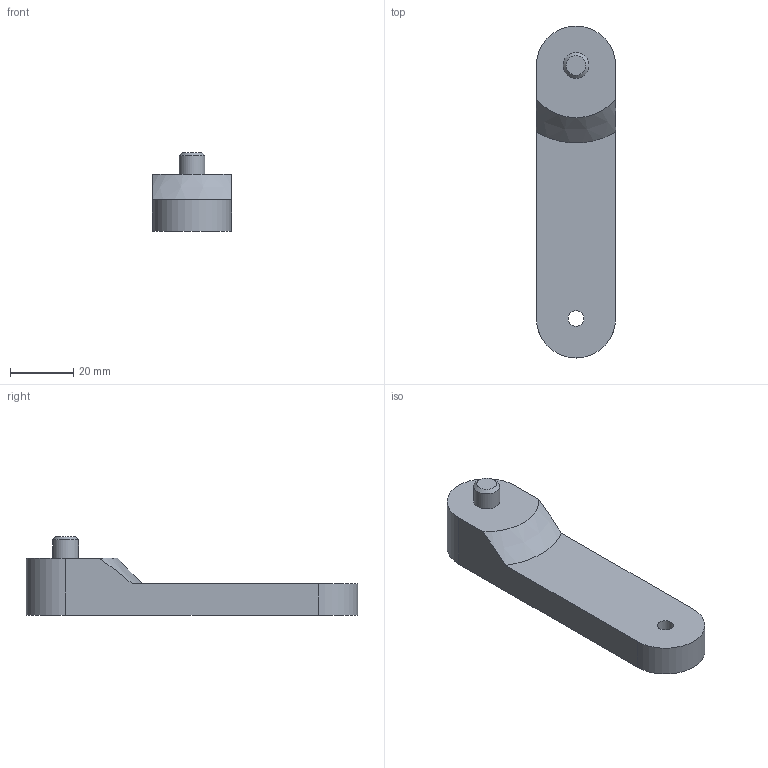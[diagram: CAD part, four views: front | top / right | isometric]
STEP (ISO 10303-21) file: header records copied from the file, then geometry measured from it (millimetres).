
FILE_DESCRIPTION(/* description */ ('STEP AP242 Edition 2','CAx-IF Rec.Pracs.---Representation and Presentation of Product Manufacturing Information (PMI)---4.0---2014-10-13','CAx-IF Rec.Pracs.---3D Tessellated Geometry---0.4---2014-09-14','2;1','CAx-IF Rec.Pracs.---User Defined Attributes---1.5---2016-08-15'),/* implementation_level */ '2;1');
FILE_NAME(/* name */ 'Draw Bot V4 - Updated Design - Right L1 Arm',/* time_stamp */ '2026-04-19T16:23:58Z',/* author */ (''),/* organization */ (''),/* preprocessor_version */ 'ST-DEVELOPER v20',/* originating_system */ 'ONSHAPE BY PTC INC, 1.213',/* authorisation */ ' ');
FILE_SCHEMA (('AP242_MANAGED_MODEL_BASED_3D_ENGINEERING_MIM_LF { 1 0 10303 442 3 1 4 }'));
Length unit declared in the file: millimetre
Products named in the file (1): Right L1 Arm
Bounding box: 25 x 105 x 24.9 mm (x, y, z)
Volume: 30350.2 mm3; surface area: 8811 mm2
Topology: 1 solids, 1 shells, 20 faces, 38 edges, 25 vertices
Faces by surface type: plane 10, cylinder 8, cone 2
Full cylindrical faces by diameter (mm): 4 x4, 5 x1, 8.2 x1
Entity records: 508 total; most frequent: DIRECTION 90, CARTESIAN_POINT 85, ORIENTED_EDGE 62, AXIS2_PLACEMENT_3D 40, EDGE_LOOP 34, FACE_BOUND 34, EDGE_CURVE 31, VERTEX_POINT 25
